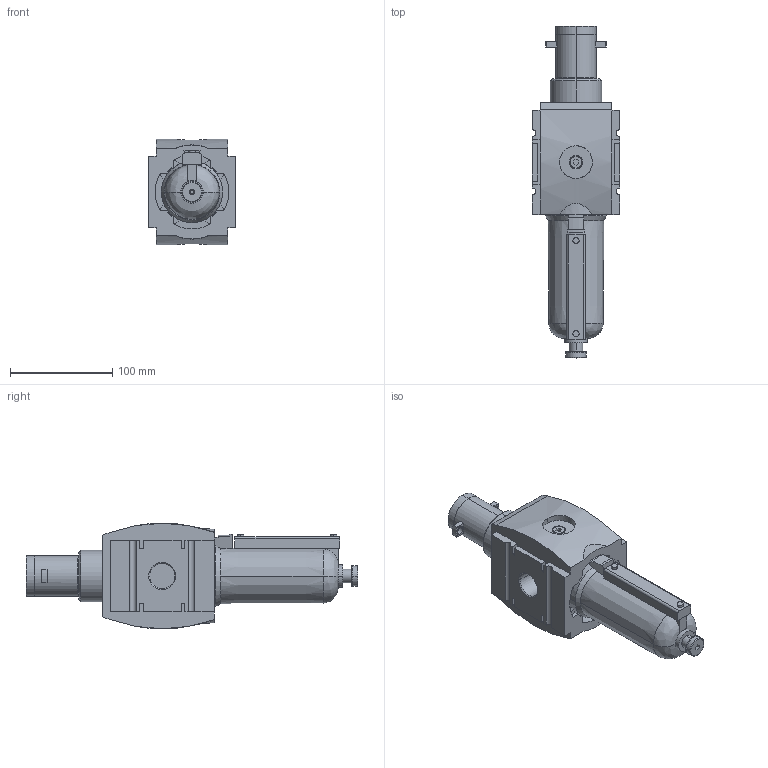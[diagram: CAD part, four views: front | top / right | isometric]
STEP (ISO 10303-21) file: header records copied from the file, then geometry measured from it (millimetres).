
FILE_DESCRIPTION((''),'2;1');
FILE_NAME('R412009188_ASM','2019-08-28T',('PDH2HC'),(''),'CREO PARAMETRIC BY PTC INC, 2016260','CREO PARAMETRIC BY PTC INC, 2016260','');
FILE_SCHEMA(('CONFIG_CONTROL_DESIGN'));
Length unit declared in the file: millimetre
Products named in the file (5): R412009188; AS5_PLUG_14; AS5_RES_METAL_FILTER_SEMI; AS5_DRAIN_KNOB_METAL; R412009188_ASM
Assembly tree (5 placements, depth 2):
  R412009188_ASM
    R412009188
    AS5_PLUG_14  x2
    AS5_RES_METAL_FILTER_SEMI
    AS5_DRAIN_KNOB_METAL
Bounding box: 85 x 324.3 x 103 mm (x, y, z)
Volume: 1184133.7 mm3; surface area: 120190.8 mm2
Topology: 5 solids, 5 shells, 292 faces, 718 edges, 468 vertices
Faces by surface type: plane 177, cylinder 80, cone 29, torus 4, bspline 2
Entity records: 8857 total; most frequent: CARTESIAN_POINT 1928, DIRECTION 1470, ORIENTED_EDGE 1372, EDGE_CURVE 686, AXIS2_PLACEMENT_3D 511, VECTOR 448, LINE 448, VERTEX_POINT 448
